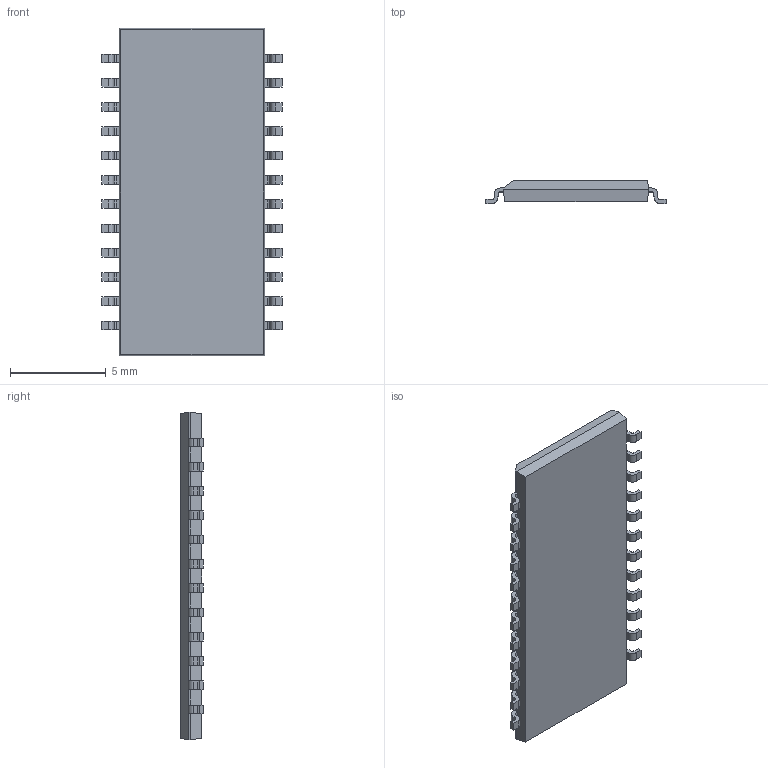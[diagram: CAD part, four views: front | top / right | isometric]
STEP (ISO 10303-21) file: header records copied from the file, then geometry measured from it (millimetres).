
FILE_DESCRIPTION (( 'STEP AP214' ), '1' );
FILE_NAME ('TSOP127P922X120-24_MS-025.AB.STEP', '2014-10-29T12:53:15', ( 'Tester2' ), ( '' ), 'SwSTEP 2.0', 'SolidWorks 2012', '' );
FILE_SCHEMA (( 'AUTOMOTIVE_DESIGN' ));
Length unit declared in the file: millimetre
Products named in the file (1): TSOP127P922X120-24_MS-025.AB
Bounding box: 9.42 x 1.2 x 17.14 mm (x, y, z)
Volume: 142.8 mm3; surface area: 345.8 mm2
Topology: 1 solids, 1 shells, 326 faces, 965 edges, 642 vertices
Faces by surface type: plane 228, cylinder 98
Entity records: 14352 total; most frequent: CARTESIAN_POINT 1934, ORIENTED_EDGE 1930, DIRECTION 1815, EDGE_CURVE 965, VECTOR 769, LINE 769, VERTEX_POINT 642, AXIS2_PLACEMENT_3D 523
